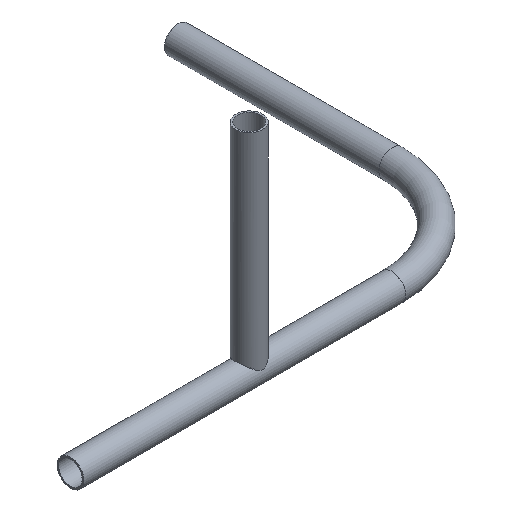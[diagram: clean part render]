
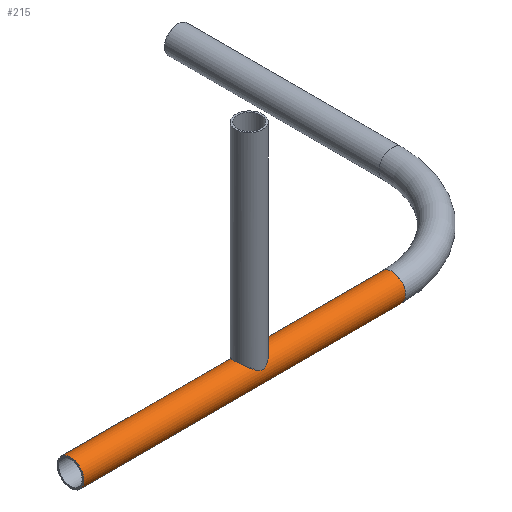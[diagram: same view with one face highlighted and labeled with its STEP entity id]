
A CAD part, isometric view. The second image highlights one B-rep face of the part: STEP entity #215.
In plain terms, the highlighted cylindrical face has radius 19.05 mm (diameter 38.1 mm), a full revolution.
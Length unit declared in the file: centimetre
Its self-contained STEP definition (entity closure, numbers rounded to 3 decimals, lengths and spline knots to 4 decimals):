
#38=FACE_OUTER_BOUND('',#51,.T.);
#51=EDGE_LOOP('',(#171,#172,#173,#174,#175));
#65=LINE('',#364,#73);
#73=VECTOR('',#308,1.905);
#89=CIRCLE('',#254,1.905);
#90=CIRCLE('',#255,1.905);
#91=CIRCLE('',#257,1.905);
#103=VERTEX_POINT('',#357);
#104=VERTEX_POINT('',#359);
#105=VERTEX_POINT('',#363);
#128=EDGE_CURVE('',#103,#104,#89,.T.);
#129=EDGE_CURVE('',#104,#103,#90,.T.);
#130=EDGE_CURVE('',#104,#105,#65,.T.);
#131=EDGE_CURVE('',#105,#105,#91,.T.);
#171=ORIENTED_EDGE('',*,*,#129,.F.);
#172=ORIENTED_EDGE('',*,*,#130,.T.);
#173=ORIENTED_EDGE('',*,*,#131,.T.);
#174=ORIENTED_EDGE('',*,*,#130,.F.);
#175=ORIENTED_EDGE('',*,*,#128,.F.);
#207=CYLINDRICAL_SURFACE('',#256,1.905);
#215=ADVANCED_FACE('',(#38),#207,.T.);
#254=AXIS2_PLACEMENT_3D('',#360,#302,#303);
#255=AXIS2_PLACEMENT_3D('',#361,#304,#305);
#256=AXIS2_PLACEMENT_3D('',#362,#306,#307);
#257=AXIS2_PLACEMENT_3D('',#365,#309,#310);
#302=DIRECTION('center_axis',(1.,0.,0.));
#303=DIRECTION('ref_axis',(0.,0.,1.));
#304=DIRECTION('center_axis',(1.,0.,0.));
#305=DIRECTION('ref_axis',(0.,0.,1.));
#306=DIRECTION('center_axis',(1.,0.,0.));
#307=DIRECTION('ref_axis',(0.,0.,1.));
#308=DIRECTION('',(-1.,0.,0.));
#309=DIRECTION('center_axis',(1.,0.,0.));
#310=DIRECTION('ref_axis',(0.,0.,1.));
#357=CARTESIAN_POINT('',(45.72,1.905,0.));
#359=CARTESIAN_POINT('',(45.72,0.,-1.905));
#360=CARTESIAN_POINT('Origin',(45.72,0.,0.));
#361=CARTESIAN_POINT('Origin',(45.72,0.,0.));
#362=CARTESIAN_POINT('Origin',(0.,0.,0.));
#363=CARTESIAN_POINT('',(0.,0.,-1.905));
#364=CARTESIAN_POINT('',(0.,0.,-1.905));
#365=CARTESIAN_POINT('Origin',(0.,0.,0.));
